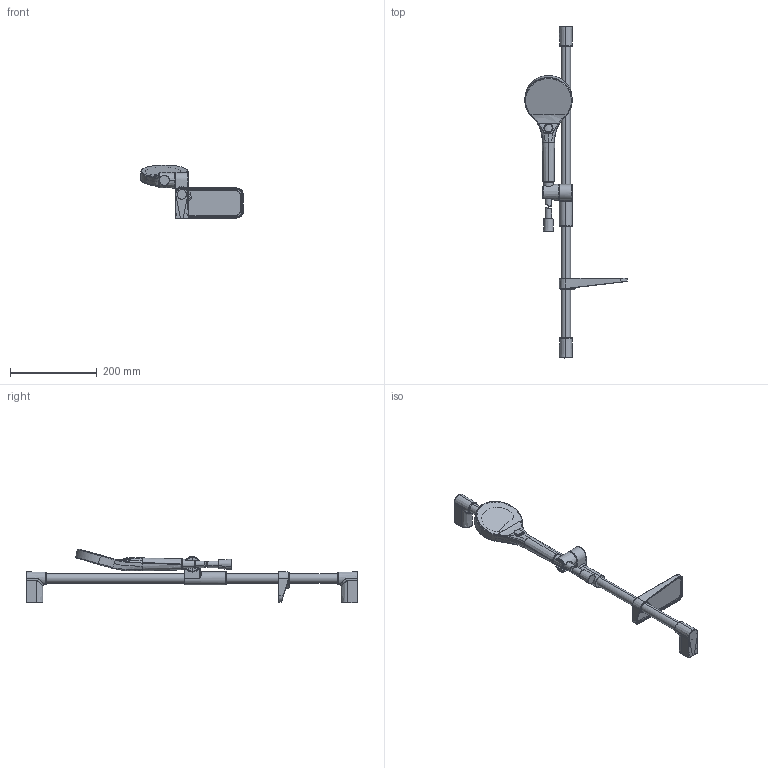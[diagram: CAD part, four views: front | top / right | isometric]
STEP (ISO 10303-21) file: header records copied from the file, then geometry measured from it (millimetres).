
FILE_DESCRIPTION (( 'STEP AP203' ), '1' );
FILE_NAME ('441602100009(2023).STEP', '2025-06-11T07:50:50', ( '' ), ( '' ), 'SwSTEP 2.0', 'SolidWorks 2024', '' );
FILE_SCHEMA (( 'CONFIG_CONTROL_DESIGN' ));
Length unit declared in the file: millimetre
Products named in the file (1): 441602100009(2023)
Bounding box: 236.39 x 765.19 x 124.32 mm (x, y, z)
Volume: 1019478.5 mm3; surface area: 194643.5 mm2
Topology: 11 solids, 11 shells, 433 faces, 1049 edges, 621 vertices
Faces by surface type: bspline 270, cone 48, cylinder 41, plane 40, torus 28, sphere 6
Entity records: 36985 total; most frequent: CARTESIAN_POINT 28945, ORIENTED_EDGE 2056, DIRECTION 1084, EDGE_CURVE 1028, VERTEX_POINT 622, B_SPLINE_CURVE_WITH_KNOTS 536, AXIS2_PLACEMENT_3D 474, EDGE_LOOP 438
